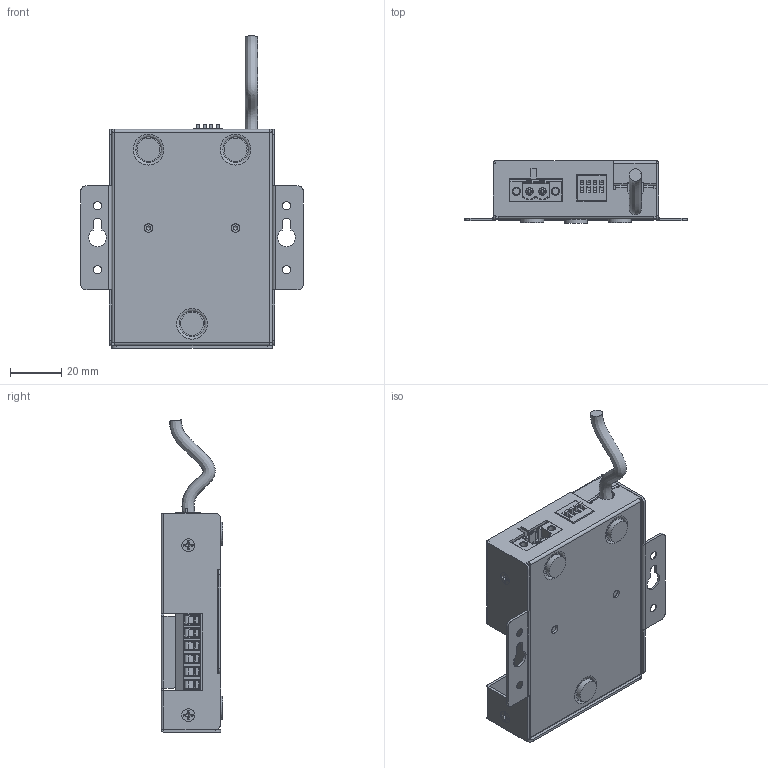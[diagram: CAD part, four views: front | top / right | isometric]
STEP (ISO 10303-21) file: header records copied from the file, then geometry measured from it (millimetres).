
FILE_DESCRIPTION(/* description */ (''),/* implementation_level */ '2;1');
FILE_NAME(/* name */ 'C:/Users/Leo/Desktop/CoolGear/Component23.step',/* time_stamp */ '2021-04-01T09:49:45-05:00',/* author */ (''),/* organization */ (''),/* preprocessor_version */ 'ST-DEVELOPER v18.1',/* originating_system */ 'Autodesk Translation Framework v9.10.0.1330',/* authorisation */ '');
FILE_SCHEMA (('AUTOMOTIVE_DESIGN { 1 0 10303 214 3 1 1 }'));
Products named in the file (1): FusionComponent
Bounding box: 86.8 x 24.21 x 121.93 mm (x, y, z)
Volume: 34263.9 mm3; surface area: 54627.2 mm2
Topology: 1 solids, 7 shells, 1961 faces, 5393 edges, 3510 vertices
Faces by surface type: plane 1296, cylinder 489, cone 98, torus 38, bspline 29, sphere 11
Full cylindrical faces by diameter (mm): 1 x24, 1.7 x4, 2.35 x36, 2.529 x5, 2.7 x2, 2.998 x5, 3 x36, 3.2 x4, 3.332 x2, 3.5 x12, 3.643 x5, 3.8 x12, 4.8 x1, 5.4 x4, 5.5 x4, 9 x3
Entity records: 79986 total; most frequent: CARTESIAN_POINT 29870, ORIENTED_EDGE 10752, DIRECTION 9989, EDGE_CURVE 5376, LINE 3615, VECTOR 3615, VERTEX_POINT 3510, AXIS2_PLACEMENT_3D 3187
